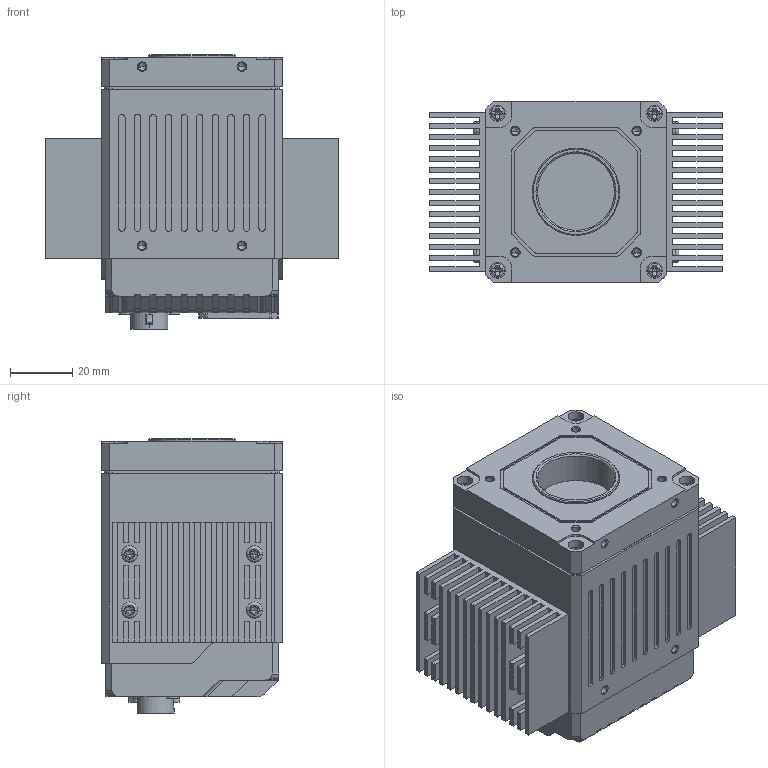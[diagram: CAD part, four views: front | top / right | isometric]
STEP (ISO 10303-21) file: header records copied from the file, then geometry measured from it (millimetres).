
FILE_DESCRIPTION((''),'2;1');
FILE_NAME('MV-CI013-GS-TH','2025-03-05T15:15:42',('sunli10'),(''),'CREO PARAMETRIC BY PTC INC, 2020044','CREO PARAMETRIC BY PTC INC, 2020044','');
FILE_SCHEMA(('CONFIG_CONTROL_DESIGN'));
Products named in the file (1): MV-CI013-GS-TH
Bounding box: 94 x 58 x 88.03 mm (x, y, z)
Volume: 291205.2 mm3; surface area: 85668.8 mm2
Topology: 19 solids, 55 shells, 3212 faces, 8743 edges, 5636 vertices
Faces by surface type: plane 1991, cylinder 870, cone 165, torus 92, extrusion 48, bspline 34, sphere 12
Entity records: 104541 total; most frequent: CARTESIAN_POINT 22855, ORIENTED_EDGE 17244, DIRECTION 16726, EDGE_CURVE 8675, VECTOR 5890, LINE 5842, VERTEX_POINT 5636, AXIS2_PLACEMENT_3D 5418
